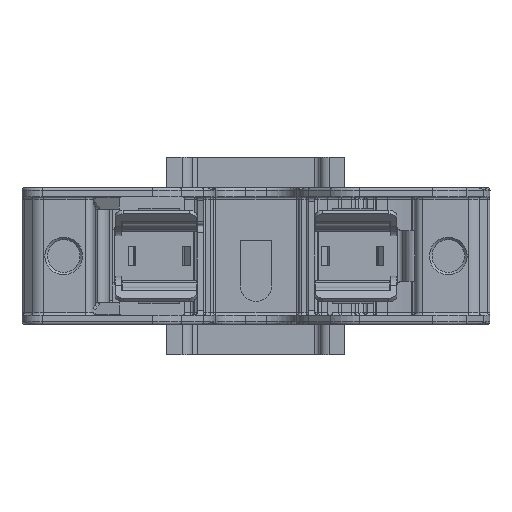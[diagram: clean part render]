
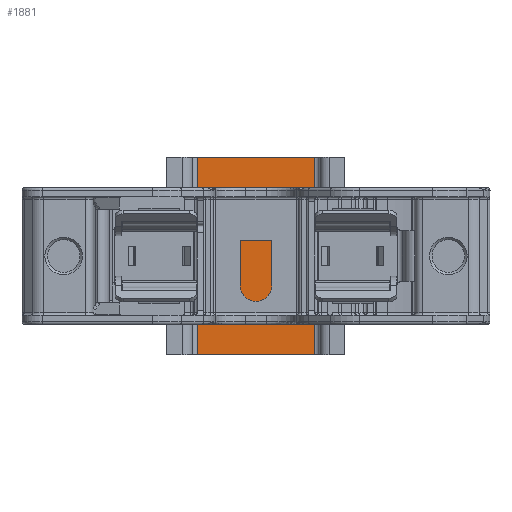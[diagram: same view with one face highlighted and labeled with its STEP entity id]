
A CAD part, left-side view. The second image highlights one B-rep face of the part: STEP entity #1881.
In plain terms, the highlighted planar face has unit normal (-1, 0, 0).
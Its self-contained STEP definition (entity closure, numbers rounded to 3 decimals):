
#1219=PLANE('',#23335);
#1881=ADVANCED_FACE('',(#3563),#1219,.T.);
#3563=FACE_OUTER_BOUND('',#4811,.T.);
#4811=EDGE_LOOP('',(#10330,#10331,#10332,#10333));
#6214=LINE('',#31364,#8198);
#6215=LINE('',#31370,#8199);
#6216=LINE('',#31372,#8200);
#6217=LINE('',#31374,#8201);
#8198=VECTOR('',#25326,1.);
#8199=VECTOR('',#25333,1.);
#8200=VECTOR('',#25334,1.);
#8201=VECTOR('',#25335,1.);
#10330=ORIENTED_EDGE('',*,*,#19222,.T.);
#10331=ORIENTED_EDGE('',*,*,#19219,.T.);
#10332=ORIENTED_EDGE('',*,*,#19223,.T.);
#10333=ORIENTED_EDGE('',*,*,#19224,.T.);
#17050=VERTEX_POINT('',#31365);
#17051=VERTEX_POINT('',#31366);
#17052=VERTEX_POINT('',#31371);
#17053=VERTEX_POINT('',#31373);
#19219=EDGE_CURVE('',#17050,#17051,#6214,.T.);
#19222=EDGE_CURVE('',#17052,#17050,#6215,.T.);
#19223=EDGE_CURVE('',#17051,#17053,#6216,.T.);
#19224=EDGE_CURVE('',#17053,#17052,#6217,.T.);
#23335=AXIS2_PLACEMENT_3D('',#31375,#25336,#25337);
#25326=DIRECTION('',(0.,0.,1.));
#25333=DIRECTION('',(0.,-1.,0.));
#25334=DIRECTION('',(0.,1.,0.));
#25335=DIRECTION('',(0.,0.,-1.));
#25336=DIRECTION('',(-1.,0.,0.));
#25337=DIRECTION('',(0.,1.,0.));
#31364=CARTESIAN_POINT('',(165.501,82.171,-53.1));
#31365=CARTESIAN_POINT('',(165.501,82.171,-6.2));
#31366=CARTESIAN_POINT('',(165.501,82.171,32.7));
#31370=CARTESIAN_POINT('',(165.501,106.271,-6.2));
#31371=CARTESIAN_POINT('',(165.501,105.171,-6.2));
#31372=CARTESIAN_POINT('',(165.501,106.271,32.7));
#31373=CARTESIAN_POINT('',(165.501,105.171,32.7));
#31374=CARTESIAN_POINT('',(165.501,105.171,108.9));
#31375=CARTESIAN_POINT('',(165.501,106.271,-53.2));
